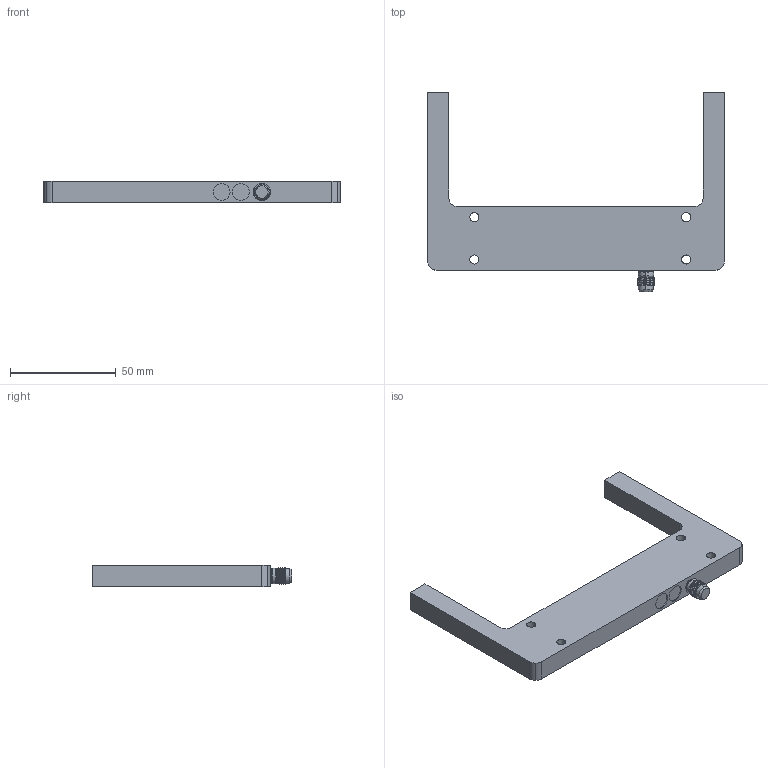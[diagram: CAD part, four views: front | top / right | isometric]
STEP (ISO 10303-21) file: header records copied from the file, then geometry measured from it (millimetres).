
FILE_DESCRIPTION(('STEP AP214'),'1');
FILE_NAME('F:/3D Zeichnungen/3D Modelle/tmp0.STEP','2018-01-29T08:28:40',(' '),(' '),'Spatial InterOp 3D',' ',' ');
FILE_SCHEMA(('automotive_design'));
Length unit declared in the file: millimetre
Products named in the file (1): 1
Bounding box: 140 x 94.25 x 10 mm (x, y, z)
Volume: 52572.7 mm3; surface area: 16827.6 mm2
Topology: 1 solids, 1 shells, 79 faces, 201 edges, 129 vertices
Faces by surface type: cylinder 46, plane 23, torus 4, cone 4, bspline 2
Entity records: 5041 total; most frequent: CARTESIAN_POINT 2450, ORIENTED_EDGE 406, DIRECTION 401, EDGE_CURVE 203, AXIS2_PLACEMENT_3D 156, VERTEX_POINT 131, EDGE_LOOP 92, LINE 89
